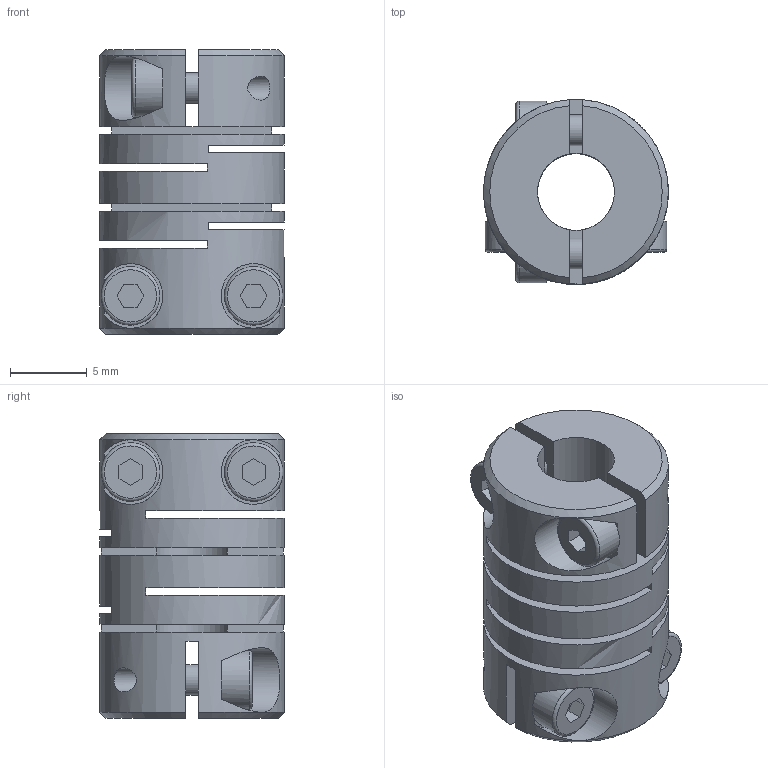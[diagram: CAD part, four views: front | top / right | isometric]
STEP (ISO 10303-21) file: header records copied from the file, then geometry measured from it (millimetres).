
FILE_DESCRIPTION (( 'STEP AP214' ), '1' );
FILE_NAME ('2246-12-B5-5-NI.step', '2022-05-27T09:30:46', ( '' ), ( '' ), 'SwSTEP 2.0', 'SolidWorks 2019', '' );
FILE_SCHEMA (( 'AUTOMOTIVE_DESIGN' ));
Length unit declared in the file: millimetre
Products named in the file (1): 2246-12-B5-5-NI
Bounding box: 12 x 11.99 x 18.5 mm (x, y, z)
Volume: 1437.7 mm3; surface area: 2197.1 mm2
Topology: 1 solids, 1 shells, 119 faces, 325 edges, 214 vertices
Faces by surface type: plane 86, cylinder 25, cone 4, torus 4
Full cylindrical faces by diameter (mm): 1.57 x4, 2 x4, 2.2 x4, 3.8 x4, 5 x2, 12 x1
Entity records: 4327 total; most frequent: CARTESIAN_POINT 904, DIRECTION 574, ORIENTED_EDGE 534, EDGE_CURVE 267, AXIS2_PLACEMENT_3D 207, VERTEX_POINT 185, EDGE_LOOP 174, VECTOR 160
